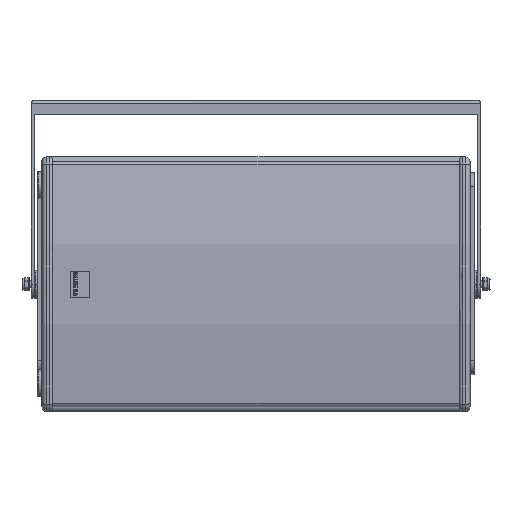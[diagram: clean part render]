
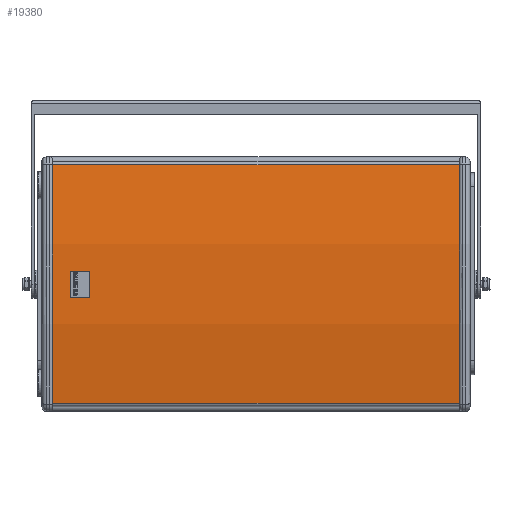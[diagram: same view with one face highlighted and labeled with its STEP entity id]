
A CAD part, top view. The second image highlights one B-rep face of the part: STEP entity #19380.
In plain terms, the highlighted cylindrical face has radius 952.205 mm (diameter 1904.41 mm), a partial arc.
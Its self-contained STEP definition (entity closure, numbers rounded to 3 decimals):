
#1179 = DIRECTION ( 'NONE',  ( 0., 0., -1. ) ) ;
#1180 = DIRECTION ( 'NONE',  ( 1., 0., 0. ) ) ;
#1181 = CARTESIAN_POINT ( 'NONE',  ( 43.229, 957.731, -180.005 ) ) ;
#1182 = AXIS2_PLACEMENT_3D ( 'NONE', #1181, #1180, #1179 ) ;
#1183 = CIRCLE ( 'NONE', #1182, 952.205 ) ;
#1184 = DIRECTION ( 'NONE',  ( 0., 0., -1. ) ) ;
#1185 = DIRECTION ( 'NONE',  ( 1., 0., 0. ) ) ;
#1186 = CARTESIAN_POINT ( 'NONE',  ( 43.229, 957.731, -180.005 ) ) ;
#1187 = AXIS2_PLACEMENT_3D ( 'NONE', #1186, #1185, #1184 ) ;
#1188 = CYLINDRICAL_SURFACE ( 'NONE', #1187, 952.205 ) ;
#1189 = FACE_OUTER_BOUND ( 'NONE', #19381, .T. ) ;
#1234 = CARTESIAN_POINT ( 'NONE',  ( 619.229, 20.618, -348.865 ) ) ;
#1235 = DIRECTION ( 'NONE',  ( -1., 0., 0. ) ) ;
#1236 = VECTOR ( 'NONE', #1235, 1000. ) ;
#1237 = CARTESIAN_POINT ( 'NONE',  ( 43.229, 20.618, -348.865 ) ) ;
#1238 = LINE ( 'NONE', #1237, #1236 ) ;
#1239 = CARTESIAN_POINT ( 'NONE',  ( 43.229, 20.618, -348.865 ) ) ;
#1240 = CARTESIAN_POINT ( 'NONE',  ( 43.229, 20.618, -11.145 ) ) ;
#1323 = DIRECTION ( 'NONE',  ( 1., 0., 0. ) ) ;
#1324 = VECTOR ( 'NONE', #1323, 1000. ) ;
#1325 = CARTESIAN_POINT ( 'NONE',  ( 43.229, 20.618, -11.145 ) ) ;
#1326 = LINE ( 'NONE', #1325, #1324 ) ;
#1327 = CARTESIAN_POINT ( 'NONE',  ( 619.229, 20.618, -11.145 ) ) ;
#1328 = DIRECTION ( 'NONE',  ( 0., 0., -1. ) ) ;
#1329 = DIRECTION ( 'NONE',  ( 1., 0., 0. ) ) ;
#1330 = CARTESIAN_POINT ( 'NONE',  ( 619.229, 957.731, -180.005 ) ) ;
#1331 = AXIS2_PLACEMENT_3D ( 'NONE', #1330, #1329, #1328 ) ;
#1332 = CIRCLE ( 'NONE', #1331, 952.205 ) ;
#19380 = ADVANCED_FACE ( 'NONE', ( #1189 ), #1188, .T. ) ;
#19381 = EDGE_LOOP ( 'NONE', ( #19382, #19386, #19439, #19442 ) ) ;
#19382 = ORIENTED_EDGE ( 'NONE', *, *, #19383, .T. ) ;
#19383 = EDGE_CURVE ( 'NONE', #19384, #19385, #1183, .T. ) ;
#19384 = VERTEX_POINT ( 'NONE', #1240 ) ;
#19385 = VERTEX_POINT ( 'NONE', #1239 ) ;
#19386 = ORIENTED_EDGE ( 'NONE', *, *, #19387, .F. ) ;
#19387 = EDGE_CURVE ( 'NONE', #19388, #19385, #1238, .T. ) ;
#19388 = VERTEX_POINT ( 'NONE', #1234 ) ;
#19439 = ORIENTED_EDGE ( 'NONE', *, *, #19440, .F. ) ;
#19440 = EDGE_CURVE ( 'NONE', #19441, #19388, #1332, .T. ) ;
#19441 = VERTEX_POINT ( 'NONE', #1327 ) ;
#19442 = ORIENTED_EDGE ( 'NONE', *, *, #19443, .F. ) ;
#19443 = EDGE_CURVE ( 'NONE', #19384, #19441, #1326, .T. ) ;
